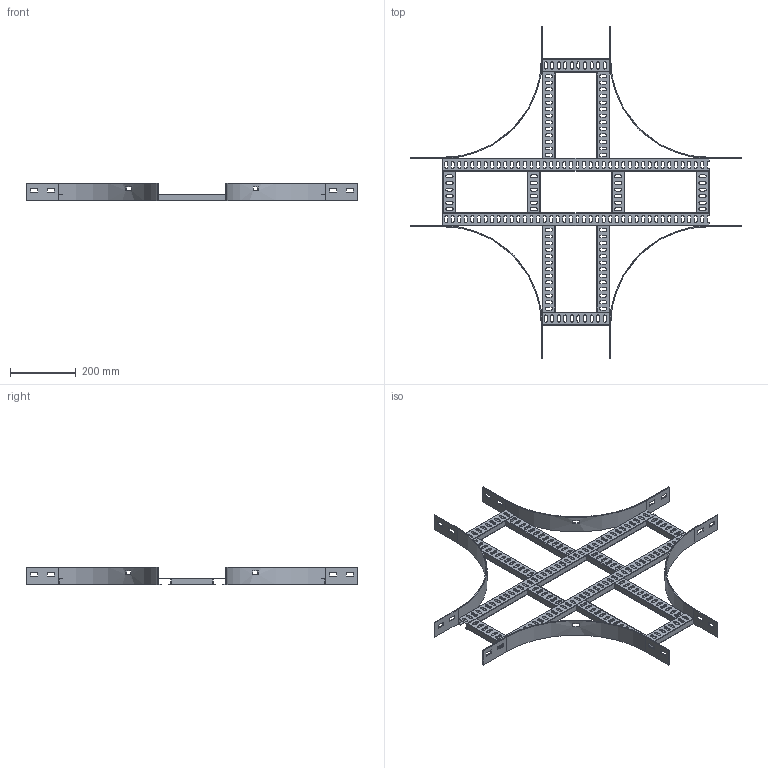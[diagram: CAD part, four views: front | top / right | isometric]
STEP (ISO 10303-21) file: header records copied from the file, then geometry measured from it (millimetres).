
FILE_DESCRIPTION(/* description */ ('','CAx-IF Rec.Pracs.---Representation and Presentation of Product Manufacturing Information (PMI)---4.0---2014-10-13'),/* implementation_level */ '2;1');
FILE_NAME(/* name */ 'Eurostrut_ECO60-200-300_Crossover for Cable Ladder ECL.step',/* time_stamp */ '2026-09-03T13:18:53+02:00',/* author */ (''),/* organization */ (''),/* preprocessor_version */ 'ST-DEVELOPER v20.1',/* originating_system */ 'Autodesk Revit 2027 27.2.0.39',/* authorisation */ '');
FILE_SCHEMA (('AP242_MANAGED_MODEL_BASED_3D_ENGINEERING_MIM_LF { 1 0 10303 442 2 1 4 }'));
Length unit declared in the file: millimetre
Products named in the file (10): TopLevelAssembly; Sweep; Sweep_1; Sweep_2; Sweep_3; Eurostrut_Cable Ladder_Rung_With slots; Eurostrut_Cable Ladder_Rung_With slots_1; Eurostrut_Cable Ladder_Rung Array Straight_Slotted; Eurostrut_Cable Ladder_Rung Array Straight_Slotted_1; Eurostrut_Cable Ladder_Accessory End_54-94-142
Assembly tree (19 placements, depth 2):
  TopLevelAssembly
    Sweep
    Sweep_1
    Eurostrut_Cable Ladder_Rung_With slots  x2
    Eurostrut_Cable Ladder_Rung_With slots_1  x2
    Sweep_2
    Sweep_3
    Eurostrut_Cable Ladder_Rung Array Straight_Slotted
    Eurostrut_Cable Ladder_Rung Array Straight_Slotted_1  x2
    Eurostrut_Cable Ladder_Accessory End_54-94-142  x8
Bounding box: 1011 x 1011 x 54 mm (x, y, z)
Volume: 860564.2 mm3; surface area: 919285.4 mm2
Topology: 24 solids, 24 shells, 1080 faces, 3096 edges, 2064 vertices
Faces by surface type: plane 668, bspline 356, cylinder 56
Entity records: 26074 total; most frequent: CARTESIAN_POINT 9709, ORIENTED_EDGE 3456, DIRECTION 3086, EDGE_CURVE 1728, LINE 1228, VECTOR 1228, VERTEX_POINT 1152, AXIS2_PLACEMENT_3D 929
